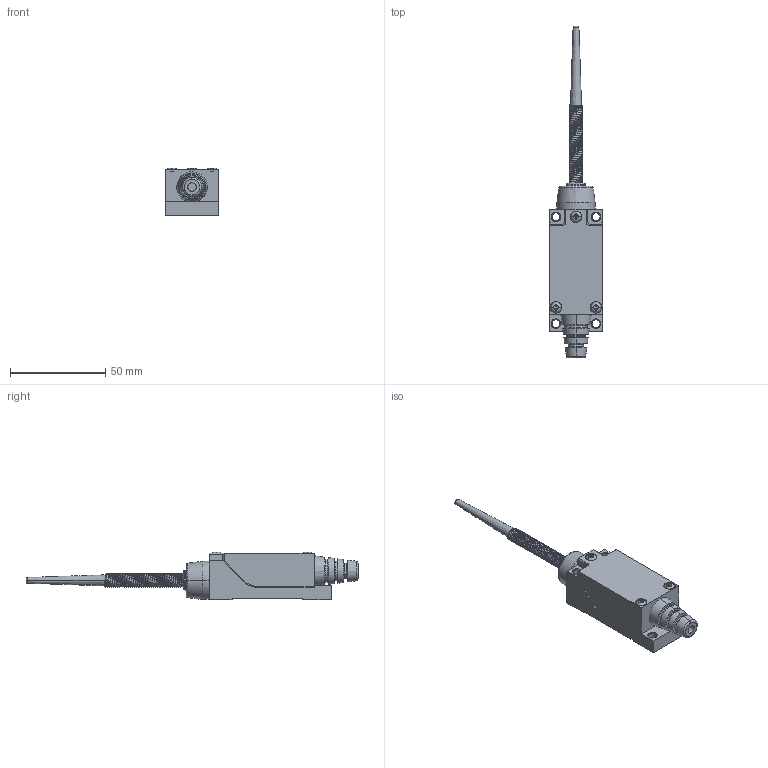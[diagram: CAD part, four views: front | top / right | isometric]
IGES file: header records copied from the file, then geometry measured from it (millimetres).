
Start section:  PTC IGES file: 000012_az8166.igs
Global section: file name: 000012_az8166.igs; native system: Pro/ENGINEER by Parametric Technology Corporation; preprocessor: 2004090; author: KAIHATSU01; organization: Unknown; date: 061017.094552; units: millimetre
Bounding box: 28 x 174 x 25 mm (x, y, z)
Volume: 45820.1 mm3; surface area: 14200.5 mm2
Topology: 1 solids, 1 shells, 222 faces, 538 edges, 334 vertices
Faces by surface type: bspline 222
